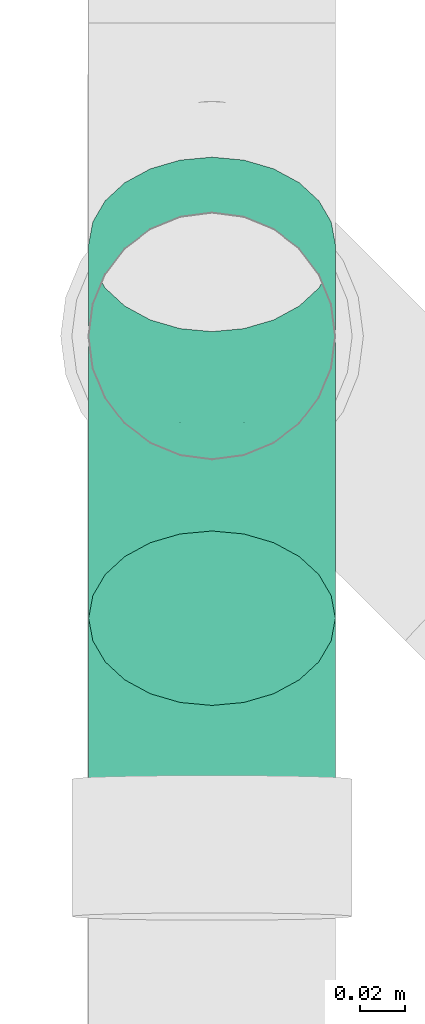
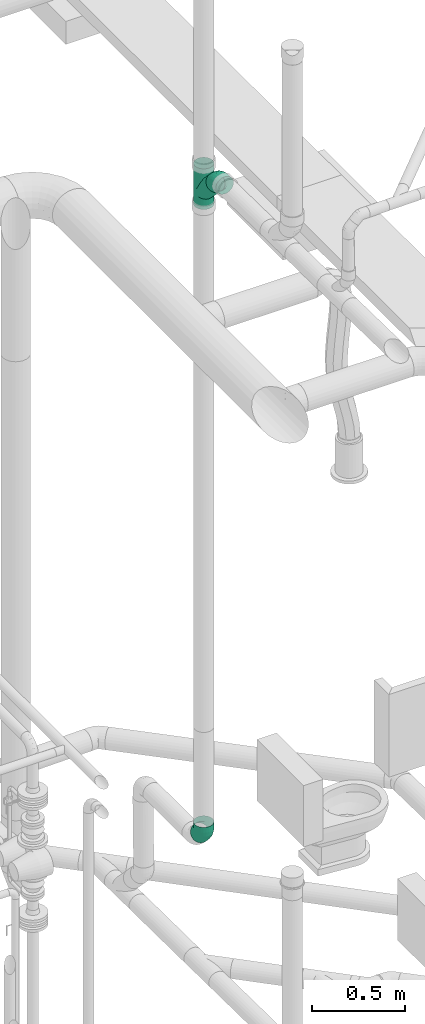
# One storey, part 136 of 374: 3 flow fittings.
"""IFC2X3 building model written with IfcOpenShell, lengths in metres."""

from ifc_helpers import new_model, si_unit, direction, origin, place, context, subcontext, project, spatial, open_shell, surface_model, source, transform, mapped, element, save


model = new_model("IFC2X3")

# Units and contexts
model_context = context("Model", 3, precision=1e-05, world=origin(), true_north=direction((-0.4480736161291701, 0.8939966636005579)))
body_context = subcontext(model_context, "Body", "Model", "MODEL_VIEW")
ifc_project = project(units=[si_unit("LENGTHUNIT", "METRE"), si_unit("AREAUNIT", "SQUARE_METRE"), si_unit("VOLUMEUNIT", "CUBIC_METRE"), si_unit("PLANEANGLEUNIT", "RADIAN"), si_unit("THERMODYNAMICTEMPERATUREUNIT", "KELVIN"), si_unit("MASSUNIT", "GRAM", prefix="KILO"), si_unit("TIMEUNIT", "SECOND")], contexts=[model_context])

# Site, building, storey
site_placement = place(None, origin())
site = spatial("IfcSite", under=ifc_project, at=site_placement, Name="Site 1", CompositionType="ELEMENT")
building_placement = place(site_placement, origin())
building = spatial("IfcBuilding", under=site, at=building_placement, Name="Undefined", CompositionType="ELEMENT")
storey_placement = place(building_placement, origin())
storey = spatial("IfcBuildingStorey", under=building, at=storey_placement, Name="Rez de chauss\x8ee", CompositionType="ELEMENT", Elevation=0.0)

# Flow fittings
shared_shape_1 = source(origin(), body_context, "Body", "SurfaceModel", [
    surface_model("IfcFaceBasedSurfaceModel", [(0.0, 0.014357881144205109, -3.552713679e-15), (0.0, 0.0, 0.0), (0.03509999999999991, 1.776356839e-15, -1.776356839e-15), (0.03509999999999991, 0.014357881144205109, 0.0), (0.0, -0.01386864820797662, -0.0037160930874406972), (0.035100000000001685, -0.01386864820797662, -0.003716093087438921), (0.0, -0.026302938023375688, -0.010895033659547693), (0.03509999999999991, -0.026302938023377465, -0.010895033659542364), (0.0, -0.03645549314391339, -0.021047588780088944), (0.035100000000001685, -0.03645549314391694, -0.021047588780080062), (0.0, -0.04363443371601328, -0.033481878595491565), (0.035100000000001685, -0.043634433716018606, -0.03348187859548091), (0.0, -0.04735052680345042, -0.04735052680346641), (0.03510000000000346, -0.04735052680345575, -0.04735052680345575), (0.0, -0.04735052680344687, -0.06170840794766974), (0.035100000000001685, -0.047350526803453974, -0.061708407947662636), (0.0, -0.04363443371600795, -0.07557705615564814), (0.035100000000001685, -0.04363443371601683, -0.07557705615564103), (0.0, -0.03645549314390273, -0.08801134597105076), (0.035100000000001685, -0.03645549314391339, -0.08801134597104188), (0.0, -0.026302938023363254, -0.0981639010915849), (0.03510000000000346, -0.026302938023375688, -0.09816390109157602), (0.0, -0.013868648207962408, -0.1053428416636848), (0.03510000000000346, -0.013868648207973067, -0.10534284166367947), (0.0, 1.5987211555e-14, -0.10905893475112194), (0.03510000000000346, 5.329070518e-15, -0.10905893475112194), (0.0, 0.014357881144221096, -0.10905893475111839), (0.035100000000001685, 0.014357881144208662, -0.10905893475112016), (0.0, 0.028226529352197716, -0.10534284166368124), (0.03510000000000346, 0.02822652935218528, -0.10534284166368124), (0.0, 0.040660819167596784, -0.0981639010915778), (0.03510000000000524, 0.040660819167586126, -0.09816390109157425), (0.0, 0.05081337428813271, -0.08801134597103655), (0.035100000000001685, 0.050813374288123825, -0.08801134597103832), (0.0, 0.05799231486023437, -0.07557705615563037), (0.035100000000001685, 0.05799231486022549, -0.07557705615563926), (0.0, 0.06170840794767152, -0.06170840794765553), (0.035100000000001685, 0.06170840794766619, -0.06170840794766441), (0.0, 0.061708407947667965, -0.0473505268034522), (0.035100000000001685, 0.061708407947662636, -0.0473505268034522), (0.0, 0.05799231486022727, -0.033481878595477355), (0.03510000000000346, 0.057992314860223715, -0.033481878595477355), (0.0, 0.050813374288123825, -0.021047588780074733), (0.035100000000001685, 0.05081337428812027, -0.021047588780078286), (0.0, 0.04066081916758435, -0.010895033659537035), (0.035100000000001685, 0.040660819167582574, -0.010895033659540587), (0.0, 0.028226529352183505, -0.0037160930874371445), (0.035100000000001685, 0.028226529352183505, -0.003716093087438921), (0.06308504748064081, -0.04369774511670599, -0.06218930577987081), (0.06357009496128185, -0.04363443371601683, -0.04783975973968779), (0.08916296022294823, -0.03298833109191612, -0.0635992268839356), (0.09010000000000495, -0.032739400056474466, -0.04927411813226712), (0.11155657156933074, -0.015952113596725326, -0.06584208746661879), (0.11288174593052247, -0.015407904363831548, -0.051555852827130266), (0.061662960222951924, -0.040167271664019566, -0.07603351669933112), (0.08641569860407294, -0.030002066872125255, -0.07737179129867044), (0.10767135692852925, -0.013831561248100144, -0.07950067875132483), (0.05940074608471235, -0.03328360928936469, -0.08842893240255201), (0.08204543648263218, -0.023984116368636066, -0.0896532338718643), (0.10149087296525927, -0.009190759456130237, -0.09160081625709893), (0.05645257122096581, -0.02351586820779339, -0.09853082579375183), (0.07635000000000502, -0.015344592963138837, -0.09960659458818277), (0.09343630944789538, -0.0023459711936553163, -0.10131789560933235), (0.053019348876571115, -0.011529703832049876, -0.1056507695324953), (0.06971752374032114, -0.004672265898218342, -0.10655356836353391), (0.08405657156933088, 0.006236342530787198, -0.10798971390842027), (0.049335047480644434, 0.0018580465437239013, -0.10930355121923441), (0.06260000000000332, 0.007305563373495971, -0.1100207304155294), (0.07399087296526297, 0.015971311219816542, -0.11116159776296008), (0.0456507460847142, 0.015735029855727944, -0.1092402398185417), (0.05548247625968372, 0.01977262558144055, -0.10977179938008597), (0.0639251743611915, 0.0261955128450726, -0.11061738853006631), (0.042217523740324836, 0.029155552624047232, -0.10546514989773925), (0.04885000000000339, 0.03187931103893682, -0.10582373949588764), (0.05454543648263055, 0.03621218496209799, -0.10639417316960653), (0.03926934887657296, 0.04120502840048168, -0.09823554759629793), (0.043154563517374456, 0.04280056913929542, -0.09844560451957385), (0.046490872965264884, 0.045338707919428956, -0.09877975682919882), (0.03700713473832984, 0.05106230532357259, -0.08804411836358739), (0.03878430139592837, 0.05179213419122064, -0.08814020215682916), (0.04031038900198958, 0.052953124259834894, -0.08829304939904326), (0.03558504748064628, 0.058055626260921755, -0.07558539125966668), (0.03603703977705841, 0.0582412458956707, -0.07560982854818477), (0.03642517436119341, 0.05853652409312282, -0.07564870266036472), (0.035585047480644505, 0.0617717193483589, -0.047358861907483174), (0.036037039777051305, 0.0619573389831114, -0.04738329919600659), (0.03642517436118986, 0.06225261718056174, -0.04742217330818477), (0.037007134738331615, 0.05824124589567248, -0.03351465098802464), (0.03878430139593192, 0.05897107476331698, -0.03361073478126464), (0.04031038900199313, 0.06013206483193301, -0.03376358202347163), (0.039269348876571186, 0.05135758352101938, -0.02111923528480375), (0.04315456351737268, 0.05295312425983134, -0.021329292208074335), (0.046490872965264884, 0.05549126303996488, -0.021663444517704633), (0.04221752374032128, 0.041589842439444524, -0.01101734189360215), (0.04884999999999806, 0.044313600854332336, -0.011375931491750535), (0.054545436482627, 0.04864647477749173, -0.01194636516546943), (0.04565074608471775, 0.029603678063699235, -0.003897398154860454), (0.05548247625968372, 0.03364127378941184, -0.004428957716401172), (0.0639251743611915, 0.040064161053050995, -0.005274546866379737), (0.04933504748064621, 0.016215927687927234, -0.0002446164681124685), (0.06260000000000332, 0.021663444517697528, -0.000961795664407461), (0.07399087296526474, 0.030329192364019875, -0.002102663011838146), (0.05301934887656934, 0.0023389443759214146, -0.0003079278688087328), (0.06971752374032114, 0.009196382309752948, -0.0012107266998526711), (0.08405657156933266, 0.020104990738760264, -0.0026468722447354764), (0.05645257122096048, -0.011081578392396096, -0.004083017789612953), (0.0763499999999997, -0.002910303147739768, -0.0051587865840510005), (0.09343630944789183, 0.010088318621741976, -0.006870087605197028), (0.059400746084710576, -0.023131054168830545, -0.011312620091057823), (0.08204543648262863, -0.01383156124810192, -0.012536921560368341), (0.1014908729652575, 0.0009617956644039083, -0.01448450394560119), (0.0616629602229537, -0.032988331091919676, -0.021504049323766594), (0.0864156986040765, -0.022823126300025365, -0.022842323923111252), (0.10767135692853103, -0.006652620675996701, -0.024971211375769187), (0.06308504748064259, -0.03998165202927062, -0.033962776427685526), (0.08916296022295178, -0.02927223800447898, -0.035372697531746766), (0.1115565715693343, -0.012236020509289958, -0.03761555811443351), (0.1363760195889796, 0.008655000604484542, -0.06908167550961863), (0.13770119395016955, 0.00919920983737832, -0.05479544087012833), (0.13249080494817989, 0.0107755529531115, -0.08274026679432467), (0.12631032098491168, 0.01541635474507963, -0.09484040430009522), (0.11825575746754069, 0.02226114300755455, -0.10455748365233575), (0.1088760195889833, 0.03084345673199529, -0.11122930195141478), (0.09881032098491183, 0.04057842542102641, -0.11440118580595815), (0.08874462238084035, 0.05080262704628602, -0.11385697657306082), (0.07936488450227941, 0.06081929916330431, -0.10963376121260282), (0.07131032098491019, 0.0699458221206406, -0.10201934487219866), (0.06512983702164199, 0.07756023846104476, -0.09153263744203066), (0.06124462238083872, 0.08314363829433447, -0.07888829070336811), (0.059919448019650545, 0.08631552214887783, -0.0649479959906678), (0.06124462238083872, 0.08685973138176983, -0.05066176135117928), (0.06512983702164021, 0.08473917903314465, -0.03700317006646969), (0.07131032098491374, 0.08009837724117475, -0.024903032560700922), (0.07936488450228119, 0.07325358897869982, -0.015185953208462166), (0.0887446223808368, 0.06467127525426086, -0.008514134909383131), (0.09881032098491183, 0.05493630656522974, -0.005342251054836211), (0.10887601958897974, 0.04471210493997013, -0.0058864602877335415), (0.11825575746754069, 0.03469543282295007, -0.010109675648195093), (0.1263103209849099, 0.02556890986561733, -0.017724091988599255), (0.13249080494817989, 0.017954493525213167, -0.0282107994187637), (0.13637601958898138, 0.012371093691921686, -0.04085514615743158)], [open_shell([[[0, 1, 2, 3]], [[1, 4, 5, 2]], [[4, 6, 7, 5]], [[6, 8, 9, 7]], [[8, 10, 11, 9]], [[10, 12, 13, 11]], [[12, 14, 15, 13]], [[14, 16, 17, 15]], [[16, 18, 19, 17]], [[18, 20, 21, 19]], [[20, 22, 23, 21]], [[22, 24, 25, 23]], [[24, 26, 27, 25]], [[26, 28, 29, 27]], [[28, 30, 31, 29]], [[30, 32, 33, 31]], [[32, 34, 35, 33]], [[34, 36, 37, 35]], [[36, 38, 39, 37]], [[38, 40, 41, 39]], [[40, 42, 43, 41]], [[42, 44, 45, 43]], [[44, 46, 47, 45]], [[46, 0, 3, 47]], [[13, 15, 48, 49]], [[49, 48, 50, 51]], [[51, 50, 52, 53]], [[15, 17, 54, 48]], [[48, 54, 55, 50]], [[50, 55, 56, 52]], [[17, 19, 57, 54]], [[54, 57, 58, 55]], [[55, 58, 59, 56]], [[19, 21, 60, 57]], [[57, 60, 61, 58]], [[58, 61, 62, 59]], [[21, 23, 63, 60]], [[60, 63, 64, 61]], [[61, 64, 65, 62]], [[23, 25, 66, 63]], [[63, 66, 67, 64]], [[64, 67, 68, 65]], [[25, 27, 69, 66]], [[66, 69, 70, 67]], [[67, 70, 71, 68]], [[27, 29, 72, 69]], [[69, 72, 73, 70]], [[70, 73, 74, 71]], [[29, 31, 75, 72]], [[72, 75, 76, 73]], [[73, 76, 77, 74]], [[31, 33, 78, 75]], [[75, 78, 79, 76]], [[76, 79, 80, 77]], [[33, 35, 81, 78]], [[78, 81, 82, 79]], [[79, 82, 83, 80]], [[35, 37, 81]], [[81, 37, 82]], [[82, 37, 83]], [[37, 39, 84]], [[37, 84, 85]], [[37, 85, 86]], [[39, 41, 87, 84]], [[84, 87, 88, 85]], [[85, 88, 89, 86]], [[41, 43, 90, 87]], [[87, 90, 91, 88]], [[88, 91, 92, 89]], [[43, 45, 93, 90]], [[90, 93, 94, 91]], [[91, 94, 95, 92]], [[45, 47, 96, 93]], [[93, 96, 97, 94]], [[94, 97, 98, 95]], [[47, 3, 99, 96]], [[96, 99, 100, 97]], [[97, 100, 101, 98]], [[3, 2, 102, 99]], [[99, 102, 103, 100]], [[100, 103, 104, 101]], [[2, 5, 105, 102]], [[102, 105, 106, 103]], [[103, 106, 107, 104]], [[5, 7, 108, 105]], [[105, 108, 109, 106]], [[106, 109, 110, 107]], [[7, 9, 111, 108]], [[108, 111, 112, 109]], [[109, 112, 113, 110]], [[9, 11, 114, 111]], [[111, 114, 115, 112]], [[112, 115, 116, 113]], [[11, 13, 49, 114]], [[114, 49, 51, 115]], [[115, 51, 53, 116]], [[53, 52, 117, 118]], [[52, 56, 119, 117]], [[56, 59, 120, 119]], [[59, 62, 121, 120]], [[62, 65, 122, 121]], [[65, 68, 123, 122]], [[68, 71, 124, 123]], [[71, 74, 125, 124]], [[74, 77, 126, 125]], [[77, 80, 127, 126]], [[80, 83, 128, 127]], [[83, 37, 129, 128]], [[37, 86, 130, 129]], [[86, 89, 131, 130]], [[89, 92, 132, 131]], [[92, 95, 133, 132]], [[95, 98, 134, 133]], [[98, 101, 135, 134]], [[101, 104, 136, 135]], [[104, 107, 137, 136]], [[107, 110, 138, 137]], [[110, 113, 139, 138]], [[113, 116, 140, 139]], [[116, 53, 118, 140]]])]),
])
flow_fitting_1_placement = place(storey_placement, origin())
element("IfcFlowFitting", 1, at=flow_fitting_1_placement, inside=storey, Name="PE-HD coude 45°", ObjectType="PE-HD coude 45°", context=body_context, shape_type="MappedRepresentation", body=[
    mapped(shared_shape_1, transform((57.12712592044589, 13.74676495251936, -0.2467039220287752), x_axis=(0.0, 0.0, -1.0), y_axis=(0.13052619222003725, 0.9914448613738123, 0.0), z_axis=(0.9914448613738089, -0.13052619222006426, 0.0))),
])
shared_shape_2 = source(origin(), body_context, "Body", "SurfaceModel", [
    surface_model("IfcFaceBasedSurfaceModel", [(0.0, 0.014357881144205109, -3.552713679e-15), (0.0, 0.0, 0.0), (0.0359000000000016, 1.776356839e-15, 0.0), (0.035900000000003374, 0.014357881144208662, 0.0), (0.0, -0.01386864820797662, -0.0037160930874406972), (0.035900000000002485, -0.01386864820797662, -0.003716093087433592), (0.0, -0.026302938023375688, -0.010895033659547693), (0.0359000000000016, -0.026302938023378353, -0.010895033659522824), (0.0, -0.03645549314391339, -0.021047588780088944), (0.035900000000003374, -0.03645549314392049, -0.021047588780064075), (0.0, -0.04363443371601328, -0.033481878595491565), (0.0359000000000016, -0.04363443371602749, -0.03348187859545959), (0.0, -0.04735052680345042, -0.04735052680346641), (0.035900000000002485, -0.04735052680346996, -0.04735052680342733), (0.0, -0.04735052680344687, -0.06170840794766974), (0.0359000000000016, -0.04735052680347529, -0.06170840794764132), (0.0, -0.04363443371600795, -0.07557705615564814), (0.035900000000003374, -0.0436344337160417, -0.07557705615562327), (0.0, -0.03645549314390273, -0.08801134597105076), (0.0359000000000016, -0.03645549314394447, -0.08801134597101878), (0.0, -0.026302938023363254, -0.0981639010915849), (0.035900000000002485, -0.02630293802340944, -0.09816390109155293), (0.0, -0.013868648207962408, -0.1053428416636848), (0.0359000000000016, -0.013868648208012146, -0.10534284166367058), (0.0, 1.5987211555e-14, -0.10905893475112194), (0.035900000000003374, -3.5527136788e-14, -0.10905893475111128), (0.0, 0.014357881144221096, -0.10905893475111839), (0.03590000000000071, 0.014357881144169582, -0.10905893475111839), (0.0, 0.028226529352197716, -0.10534284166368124), (0.0359000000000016, 0.028226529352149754, -0.1053428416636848), (0.0, 0.040660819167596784, -0.0981639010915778), (0.0359000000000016, 0.0406608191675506, -0.09816390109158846), (0.0, 0.05081337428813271, -0.08801134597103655), (0.0359000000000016, 0.05081337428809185, -0.08801134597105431), (0.0, 0.05799231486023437, -0.07557705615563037), (0.0359000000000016, 0.05799231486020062, -0.07557705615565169), (0.0, 0.06170840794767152, -0.06170840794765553), (0.035900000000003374, 0.061708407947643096, -0.06170840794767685), (0.0, 0.061708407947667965, -0.0473505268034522), (0.0359000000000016, 0.061708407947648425, -0.04735052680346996), (0.0, 0.05799231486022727, -0.033481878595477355), (0.0359000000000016, 0.05799231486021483, -0.03348187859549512), (0.0, 0.050813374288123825, -0.021047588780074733), (0.0359000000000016, 0.05081337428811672, -0.021047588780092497), (0.0, 0.04066081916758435, -0.010895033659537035), (0.0359000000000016, 0.040660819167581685, -0.010895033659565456), (0.0, 0.028226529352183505, -0.0037160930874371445), (0.03590000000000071, 0.028226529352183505, -0.0037160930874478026), (0.06297256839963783, 0.058293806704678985, -0.04690098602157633), (0.06344180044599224, 0.05823462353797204, -0.061251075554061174), (0.08832048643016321, 0.04826752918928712, -0.04558100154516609), (0.08922905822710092, 0.04803456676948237, -0.05990821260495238), (0.11032897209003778, 0.03226829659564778, -0.043474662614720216), (0.11161900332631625, 0.031758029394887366, -0.05776536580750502), (0.06159684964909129, 0.05475122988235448, -0.03305518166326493), (0.0856566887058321, 0.04523444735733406, -0.03180227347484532), (0.10654679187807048, 0.0300482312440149, -0.029802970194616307), (0.05940839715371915, 0.04784831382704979, -0.020657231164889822), (0.08141919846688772, 0.03914202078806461, -0.019511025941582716), (0.10053021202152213, 0.025249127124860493, -0.01768199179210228), (0.056556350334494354, 0.03805548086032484, -0.01055203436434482), (0.07589679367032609, 0.030405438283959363, -0.009544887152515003), (0.09268925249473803, 0.018198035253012, -0.007937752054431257), (0.05323507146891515, 0.026040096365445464, -0.003428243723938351), (0.06946581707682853, 0.019620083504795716, -0.0025830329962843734), (0.08355826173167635, 0.009375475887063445, -0.0012343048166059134), (0.04967090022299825, 0.012620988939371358, 0.000228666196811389), (0.06256452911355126, 0.007520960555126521, 0.0009000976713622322), (0.07375950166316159, -0.0006173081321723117, 0.0019715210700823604), (0.046106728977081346, -0.001287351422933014, 0.00016948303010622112), (0.055663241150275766, -0.005067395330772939, 0.0006671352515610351), (0.06396074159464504, -0.011099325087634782, 0.001461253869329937), (0.042785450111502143, -0.014737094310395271, -0.00360175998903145), (0.049232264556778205, -0.0172871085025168, -0.0032660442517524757), (0.05482975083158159, -0.02135624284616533, -0.0027303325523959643), (0.03993340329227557, -0.02681166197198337, -0.01082805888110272), (0.043709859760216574, -0.028305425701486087, -0.010631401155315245), (0.04698879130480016, -0.030689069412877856, -0.010317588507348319), (0.03774495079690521, -0.036688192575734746, -0.021016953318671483), (0.039472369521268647, -0.037371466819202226, -0.0209269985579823), (0.04097221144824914, -0.038461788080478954, -0.02078345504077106), (0.036369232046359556, -0.043693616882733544, -0.03347408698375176), (0.036808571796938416, -0.04386739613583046, -0.03345120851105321), (0.037190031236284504, -0.04414470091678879, -0.033414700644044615), (0.036369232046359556, -0.047409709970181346, -0.06170061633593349), (0.036808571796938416, -0.047583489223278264, -0.06167773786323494), (0.037190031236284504, -0.047860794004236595, -0.06164122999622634), (0.03774495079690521, -0.04386713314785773, -0.07554642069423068), (0.039472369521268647, -0.04455040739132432, -0.0754564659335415), (0.04097221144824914, -0.045640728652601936, -0.07531292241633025), (0.03993340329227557, -0.03696421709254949, -0.08794437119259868), (0.043709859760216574, -0.03845798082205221, -0.0877477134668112), (0.04698879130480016, -0.040841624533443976, -0.08743390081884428), (0.042785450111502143, -0.027171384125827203, -0.09804956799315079), (0.049232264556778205, -0.029721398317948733, -0.09771385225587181), (0.05482975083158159, -0.03379053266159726, -0.0971781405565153), (0.046106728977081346, -0.015155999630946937, -0.10517335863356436), (0.055663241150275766, -0.018936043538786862, -0.10467570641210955), (0.06396074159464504, -0.024967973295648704, -0.10388158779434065), (0.04967090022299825, -0.0017368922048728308, -0.10883026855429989), (0.06256452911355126, -0.006836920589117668, -0.10815883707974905), (0.07375950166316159, -0.0149751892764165, -0.10708741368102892), (0.05323507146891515, 0.012171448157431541, -0.10877108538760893), (0.06946581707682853, 0.005751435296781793, -0.10792587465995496), (0.08355826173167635, -0.004493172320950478, -0.1065771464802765), (0.056556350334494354, 0.02562119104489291, -0.10499984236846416), (0.07589679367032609, 0.01797114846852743, -0.10399269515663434), (0.09268925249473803, 0.00576374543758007, -0.1023855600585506), (0.05940839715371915, 0.03769575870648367, -0.09777354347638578), (0.08141919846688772, 0.028989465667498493, -0.09662733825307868), (0.10053021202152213, 0.015096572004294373, -0.09479830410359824), (0.06159684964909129, 0.0475722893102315, -0.08758464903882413), (0.0856566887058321, 0.03805550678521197, -0.08633174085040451), (0.10654679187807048, 0.022869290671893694, -0.0843324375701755), (0.06297256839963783, 0.05457771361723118, -0.07512751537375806), (0.08832048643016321, 0.044551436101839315, -0.07380753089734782), (0.11032897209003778, 0.02855220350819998, -0.07170119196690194), (0.13636991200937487, 0.007767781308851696, -0.04024910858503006), (0.13765994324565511, 0.007257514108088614, -0.054539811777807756), (0.13258773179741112, 0.00554771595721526, -0.02657741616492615), (0.1265711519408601, 0.0007486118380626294, -0.014456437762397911), (0.1187301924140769, -0.006302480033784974, -0.004712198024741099), (0.10959920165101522, -0.015125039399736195, 0.0019912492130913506), (0.09980044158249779, -0.0251178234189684, 0.0051970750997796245), (0.09000168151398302, -0.03559984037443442, 0.004686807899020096), (0.08087069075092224, -0.04585675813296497, 0.0004952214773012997), (0.07302973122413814, -0.055189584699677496, -0.007092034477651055), (0.06701315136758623, -0.06296230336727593, -0.017557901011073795), (0.06323097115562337, -0.06864521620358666, -0.03018914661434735), (0.06194093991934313, -0.07185104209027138, -0.04412497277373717), (0.06323097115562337, -0.07236130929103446, -0.05841567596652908), (0.06701315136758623, -0.07014124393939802, -0.07208736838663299), (0.07302973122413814, -0.06534213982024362, -0.08420834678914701), (0.08087069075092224, -0.0582910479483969, -0.09395258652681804), (0.09000168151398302, -0.049468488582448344, -0.10065603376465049), (0.09980044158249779, -0.03947570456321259, -0.10386185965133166), (0.10959920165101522, -0.028993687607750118, -0.10335159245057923), (0.1187301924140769, -0.018736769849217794, -0.09916000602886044), (0.1265711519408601, -0.00940394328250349, -0.09157275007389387), (0.13258773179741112, -0.0016312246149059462, -0.08110688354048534), (0.13636991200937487, 0.004051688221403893, -0.06847563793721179)], [open_shell([[[0, 1, 2, 3]], [[1, 4, 5, 2]], [[4, 6, 7, 5]], [[6, 8, 9, 7]], [[8, 10, 11, 9]], [[10, 12, 13, 11]], [[12, 14, 15, 13]], [[14, 16, 17, 15]], [[16, 18, 19, 17]], [[18, 20, 21, 19]], [[20, 22, 23, 21]], [[22, 24, 25, 23]], [[24, 26, 27, 25]], [[26, 28, 29, 27]], [[28, 30, 31, 29]], [[30, 32, 33, 31]], [[32, 34, 35, 33]], [[34, 36, 37, 35]], [[36, 38, 39, 37]], [[38, 40, 41, 39]], [[40, 42, 43, 41]], [[42, 44, 45, 43]], [[44, 46, 47, 45]], [[46, 0, 3, 47]], [[37, 39, 48, 49]], [[49, 48, 50, 51]], [[51, 50, 52, 53]], [[39, 41, 54, 48]], [[48, 54, 55, 50]], [[50, 55, 56, 52]], [[41, 43, 57, 54]], [[54, 57, 58, 55]], [[55, 58, 59, 56]], [[43, 45, 60, 57]], [[57, 60, 61, 58]], [[58, 61, 62, 59]], [[45, 47, 63, 60]], [[60, 63, 64, 61]], [[61, 64, 65, 62]], [[47, 3, 66, 63]], [[63, 66, 67, 64]], [[64, 67, 68, 65]], [[3, 2, 69, 66]], [[66, 69, 70, 67]], [[67, 70, 71, 68]], [[2, 5, 72, 69]], [[69, 72, 73, 70]], [[70, 73, 74, 71]], [[5, 7, 75, 72]], [[72, 75, 76, 73]], [[73, 76, 77, 74]], [[7, 9, 78, 75]], [[75, 78, 79, 76]], [[76, 79, 80, 77]], [[9, 11, 81, 78]], [[78, 81, 82, 79]], [[79, 82, 83, 80]], [[11, 13, 81]], [[81, 13, 82]], [[82, 13, 83]], [[13, 15, 84]], [[13, 84, 85]], [[13, 85, 86]], [[15, 17, 87, 84]], [[84, 87, 88, 85]], [[85, 88, 89, 86]], [[17, 19, 90, 87]], [[87, 90, 91, 88]], [[88, 91, 92, 89]], [[19, 21, 93, 90]], [[90, 93, 94, 91]], [[91, 94, 95, 92]], [[21, 23, 96, 93]], [[93, 96, 97, 94]], [[94, 97, 98, 95]], [[23, 25, 99, 96]], [[96, 99, 100, 97]], [[97, 100, 101, 98]], [[25, 27, 102, 99]], [[99, 102, 103, 100]], [[100, 103, 104, 101]], [[27, 29, 105, 102]], [[102, 105, 106, 103]], [[103, 106, 107, 104]], [[29, 31, 108, 105]], [[105, 108, 109, 106]], [[106, 109, 110, 107]], [[31, 33, 111, 108]], [[108, 111, 112, 109]], [[109, 112, 113, 110]], [[33, 35, 114, 111]], [[111, 114, 115, 112]], [[112, 115, 116, 113]], [[35, 37, 49, 114]], [[114, 49, 51, 115]], [[115, 51, 53, 116]], [[53, 52, 117, 118]], [[52, 56, 119, 117]], [[56, 59, 120, 119]], [[59, 62, 121, 120]], [[62, 65, 122, 121]], [[65, 68, 123, 122]], [[68, 71, 124, 123]], [[71, 74, 125, 124]], [[74, 77, 126, 125]], [[77, 80, 127, 126]], [[80, 83, 128, 127]], [[83, 13, 129, 128]], [[13, 86, 130, 129]], [[86, 89, 131, 130]], [[89, 92, 132, 131]], [[92, 95, 133, 132]], [[95, 98, 134, 133]], [[98, 101, 135, 134]], [[101, 104, 136, 135]], [[104, 107, 137, 136]], [[107, 110, 138, 137]], [[110, 113, 139, 138]], [[113, 116, 140, 139]], [[116, 53, 118, 140]]])]),
])
flow_fitting_2_placement = place(storey_placement, origin())
element("IfcFlowFitting", 2, at=flow_fitting_2_placement, inside=storey, Name="PE-HD coude 45°", ObjectType="PE-HD coude 45°", context=body_context, shape_type="MappedRepresentation", body=[
    mapped(shared_shape_2, transform((57.0208740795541, 13.625175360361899, 3.994380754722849), x_axis=(-8.6595606e-17, -0.7071067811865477, 0.7071067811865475), y_axis=(-0.13052619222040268, 0.701057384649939, 0.7010573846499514), z_axis=(-0.9914448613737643, -0.09229595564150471, -0.09229595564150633))),
])
shared_shape_3 = source(origin(), body_context, "Body", "SurfaceModel", [
    surface_model("IfcFaceBasedSurfaceModel", [(0.0, 0.014357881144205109, -3.552713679e-15), (0.0, 0.0, 0.0), (0.2656999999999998, 0.0, 0.0), (0.2656999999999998, 0.014357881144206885, 0.0), (0.0, -0.01386864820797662, -0.0037160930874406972), (0.2656999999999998, -0.013868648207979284, -0.003716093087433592), (0.0, -0.026302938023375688, -0.010895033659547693), (0.2656999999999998, -0.026302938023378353, -0.010895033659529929), (0.0, -0.03645549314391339, -0.021047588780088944), (0.2656999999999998, -0.03645549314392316, -0.021047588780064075), (0.0, -0.04363443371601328, -0.033481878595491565), (0.2656999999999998, -0.043634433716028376, -0.033481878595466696), (0.0, -0.04735052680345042, -0.04735052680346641), (0.2656999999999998, -0.0473505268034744, -0.047350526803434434), (0.0, -0.04735052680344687, -0.06170840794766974), (0.2656999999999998, -0.04735052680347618, -0.06170840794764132), (0.0, -0.04363443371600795, -0.07557705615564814), (0.2656999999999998, -0.04363443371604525, -0.07557705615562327), (0.0, -0.03645549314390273, -0.08801134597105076), (0.2656999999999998, -0.036455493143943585, -0.08801134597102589), (0.0, -0.026302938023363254, -0.0981639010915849), (0.2656999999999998, -0.026302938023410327, -0.09816390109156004), (0.0, -0.013868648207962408, -0.1053428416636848), (0.2656999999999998, -0.013868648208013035, -0.10534284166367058), (0.0, 1.5987211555e-14, -0.10905893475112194), (0.2656999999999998, -3.6415315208e-14, -0.10905893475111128), (0.0, 0.014357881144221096, -0.10905893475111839), (0.2656999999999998, 0.014357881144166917, -0.10905893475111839), (0.0, 0.028226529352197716, -0.10534284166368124), (0.2656999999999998, 0.02822652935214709, -0.1053428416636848), (0.0, 0.040660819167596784, -0.0981639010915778), (0.2656999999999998, 0.04066081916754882, -0.09816390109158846), (0.0, 0.05081337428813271, -0.08801134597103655), (0.2656999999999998, 0.0508133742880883, -0.08801134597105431), (0.0, 0.05799231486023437, -0.07557705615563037), (0.2656999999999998, 0.05799231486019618, -0.07557705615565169), (0.0, 0.06170840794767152, -0.06170840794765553), (0.2656999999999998, 0.06170840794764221, -0.06170840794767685), (0.0, 0.061708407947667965, -0.0473505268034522), (0.2656999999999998, 0.061708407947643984, -0.04735052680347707), (0.0, 0.05799231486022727, -0.033481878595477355), (0.2656999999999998, 0.05799231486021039, -0.03348187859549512), (0.0, 0.050813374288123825, -0.021047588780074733), (0.2656999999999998, 0.050813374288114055, -0.021047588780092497), (0.0, 0.04066081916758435, -0.010895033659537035), (0.2656999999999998, 0.04066081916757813, -0.01089503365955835), (0.0, 0.028226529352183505, -0.0037160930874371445), (0.2656999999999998, 0.028226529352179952, -0.0037160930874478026), (0.25249981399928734, -0.07894595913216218, -0.04319090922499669), (0.2511746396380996, -0.0821178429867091, -0.05713120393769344), (0.21610731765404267, -0.04735052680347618, -0.06170840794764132), (0.22063174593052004, -0.0473505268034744, -0.047350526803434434), (0.2472894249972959, -0.08770124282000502, -0.06977555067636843), (0.20284236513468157, -0.04363443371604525, -0.07557705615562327), (0.24110894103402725, -0.09531565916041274, -0.08026225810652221), (0.1817408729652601, -0.036455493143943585, -0.08801134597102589), (0.23305437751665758, -0.10444218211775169, -0.0878766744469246), (0.15424087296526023, -0.026302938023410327, -0.09816390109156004), (0.2236746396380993, -0.11445885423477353, -0.09209988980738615), (0.12221644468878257, -0.013868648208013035, -0.10534284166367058), (0.2136089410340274, -0.12468305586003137, -0.09264409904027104), (0.08784999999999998, -3.6415315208e-14, -0.10905893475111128), (0.20354324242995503, -0.1344180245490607, -0.08947221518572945), (0.08195365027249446, -0.013868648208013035, -0.10534284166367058), (0.1941635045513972, -0.1430003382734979, -0.08280039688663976), (0.0764591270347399, -0.026302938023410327, -0.09816390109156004), (0.1861089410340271, -0.14984512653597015, -0.07308331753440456), (0.07174087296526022, -0.036455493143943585, -0.08801134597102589), (0.17992845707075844, -0.15448592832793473, -0.060983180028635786), (0.06812042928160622, -0.04363443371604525, -0.07557705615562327), (0.17604324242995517, -0.15660648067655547, -0.04732458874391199), (0.06584452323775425, -0.04735052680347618, -0.06170840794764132), (0.174718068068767, -0.15606227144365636, -0.03303835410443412), (0.0650682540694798, -0.0473505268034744, -0.047350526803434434), (0.17604324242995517, -0.15289038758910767, -0.01909805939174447), (0.06584452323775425, -0.043634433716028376, -0.033481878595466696), (0.17992845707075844, -0.14730698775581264, -0.006453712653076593), (0.06812042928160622, -0.03645549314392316, -0.021047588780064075), (0.1861089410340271, -0.13969257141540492, 0.004032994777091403), (0.07174087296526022, -0.026302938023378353, -0.010895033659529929), (0.1941635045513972, -0.13056604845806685, 0.011647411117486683), (0.07645912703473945, -0.013868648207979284, -0.003716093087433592), (0.20354324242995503, -0.12054937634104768, 0.01587062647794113), (0.08195365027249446, 0.0, 0.0), (0.2136089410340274, -0.11032517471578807, 0.016414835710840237), (0.08784999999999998, 0.014357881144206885, 0.0), (0.2236746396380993, -0.1005902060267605, 0.013242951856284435), (0.12221644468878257, 0.0, 0.0), (0.23305437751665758, -0.09200789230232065, 0.006571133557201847), (0.1542408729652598, -0.013868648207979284, -0.003716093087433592), (0.24110894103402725, -0.0851631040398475, -0.0031459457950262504), (0.18174087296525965, -0.026302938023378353, -0.010895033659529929), (0.2472894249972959, -0.08052230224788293, -0.015246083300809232), (0.20284236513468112, -0.03645549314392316, -0.021047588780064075), (0.2511746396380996, -0.0784017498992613, -0.02890467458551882), (0.21610731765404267, -0.043634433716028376, -0.033481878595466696)], [open_shell([[[0, 1, 2, 3]], [[1, 4, 5, 2]], [[4, 6, 7, 5]], [[6, 8, 9, 7]], [[8, 10, 11, 9]], [[10, 12, 13, 11]], [[12, 14, 15, 13]], [[14, 16, 17, 15]], [[16, 18, 19, 17]], [[18, 20, 21, 19]], [[20, 22, 23, 21]], [[22, 24, 25, 23]], [[24, 26, 27, 25]], [[26, 28, 29, 27]], [[28, 30, 31, 29]], [[30, 32, 33, 31]], [[32, 34, 35, 33]], [[34, 36, 37, 35]], [[36, 38, 39, 37]], [[38, 40, 41, 39]], [[40, 42, 43, 41]], [[42, 44, 45, 43]], [[44, 46, 47, 45]], [[46, 0, 3, 47]], [[48, 49, 50, 51]], [[49, 52, 53, 50]], [[52, 54, 55, 53]], [[54, 56, 57, 55]], [[56, 58, 59, 57]], [[58, 60, 61, 59]], [[60, 62, 63, 61]], [[62, 64, 65, 63]], [[64, 66, 67, 65]], [[66, 68, 69, 67]], [[68, 70, 71, 69]], [[70, 72, 73, 71]], [[72, 74, 75, 73]], [[74, 76, 77, 75]], [[76, 78, 79, 77]], [[78, 80, 81, 79]], [[80, 82, 83, 81]], [[82, 84, 85, 83]], [[84, 86, 87, 85]], [[86, 88, 89, 87]], [[88, 90, 91, 89]], [[90, 92, 93, 91]], [[92, 94, 95, 93]], [[94, 48, 51, 95]]])]),
])
flow_fitting_3_placement = place(storey_placement, origin())
element("IfcFlowFitting", 3, at=flow_fitting_3_placement, inside=storey, Name="PE-HD embranchement 45°", ObjectType="PE-HD embranchement 45°", context=body_context, shape_type="MappedRepresentation", body=[
    mapped(shared_shape_3, transform((57.0208740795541, 13.74676495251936, 3.7908375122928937), x_axis=(0.0, 0.0, 1.0), y_axis=(-0.13052619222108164, 0.9914448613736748, 0.0), z_axis=(-0.9914448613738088, -0.13052619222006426, 0.0))),
])

save(model, "model.ifc")
